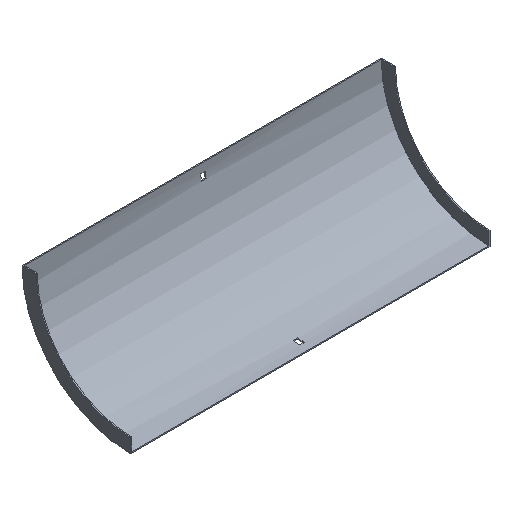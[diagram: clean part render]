
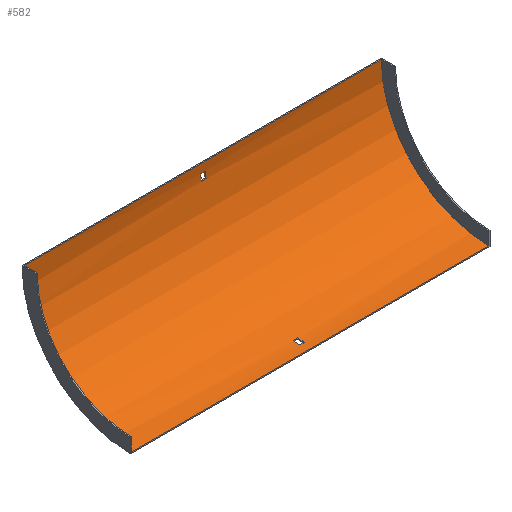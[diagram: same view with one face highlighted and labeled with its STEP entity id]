
A CAD part, isometric view. The second image highlights one B-rep face of the part: STEP entity #582.
In plain terms, the highlighted cylindrical face has radius 152 mm (diameter 304 mm), a partial arc.
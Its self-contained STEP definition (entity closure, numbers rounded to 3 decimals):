
#2 = FACE_OUTER_BOUND ( 'NONE', #137, .T. ) ;
#3 = DIRECTION ( 'NONE',  ( 0., 0., 1. ) ) ;
#10 = ORIENTED_EDGE ( 'NONE', *, *, #424, .T. ) ;
#13 = FACE_BOUND ( 'NONE', #458, .T. ) ;
#17 = ORIENTED_EDGE ( 'NONE', *, *, #328, .T. ) ;
#18 = ORIENTED_EDGE ( 'NONE', *, *, #442, .F. ) ;
#24 = DIRECTION ( 'NONE',  ( -1., 0., 0. ) ) ;
#25 = CARTESIAN_POINT ( 'NONE',  ( 3.25, -132.5, -150.542 ) ) ;
#27 = VERTEX_POINT ( 'NONE', #240 ) ;
#32 = ORIENTED_EDGE ( 'NONE', *, *, #130, .T. ) ;
#33 = CARTESIAN_POINT ( 'NONE',  ( 252., -1.5, 0. ) ) ;
#37 = VERTEX_POINT ( 'NONE', #160 ) ;
#40 = CARTESIAN_POINT ( 'NONE',  ( 3.25, -153.5, 0. ) ) ;
#42 = CARTESIAN_POINT ( 'NONE',  ( -3.25, -153.5, 0. ) ) ;
#46 = DIRECTION ( 'NONE',  ( -1., 0., 0. ) ) ;
#52 = AXIS2_PLACEMENT_3D ( 'NONE', #329, #429, #244 ) ;
#53 = LINE ( 'NONE', #238, #271 ) ;
#54 = DIRECTION ( 'NONE',  ( 0., 0., 1. ) ) ;
#62 = CYLINDRICAL_SURFACE ( 'NONE', #545, 152. ) ;
#70 = CARTESIAN_POINT ( 'NONE',  ( 252., -1.5, 0. ) ) ;
#84 = AXIS2_PLACEMENT_3D ( 'NONE', #432, #197, #150 ) ;
#90 = VERTEX_POINT ( 'NONE', #115 ) ;
#92 = LINE ( 'NONE', #270, #577 ) ;
#100 = LINE ( 'NONE', #473, #133 ) ;
#103 = CIRCLE ( 'NONE', #591, 152. ) ;
#104 = CARTESIAN_POINT ( 'NONE',  ( 253.5, -1.974, -12. ) ) ;
#106 = EDGE_LOOP ( 'NONE', ( #179, #17, #10, #382 ) ) ;
#115 = CARTESIAN_POINT ( 'NONE',  ( -3.25, -2.958, -21. ) ) ;
#118 = CARTESIAN_POINT ( 'NONE',  ( 3.25, -1.974, -12. ) ) ;
#120 = VECTOR ( 'NONE', #488, 1000. ) ;
#124 = EDGE_CURVE ( 'NONE', #423, #474, #493, .T. ) ;
#130 = EDGE_CURVE ( 'NONE', #604, #317, #441, .T. ) ;
#133 = VECTOR ( 'NONE', #188, 1000. ) ;
#137 = EDGE_LOOP ( 'NONE', ( #304, #203, #161, #32 ) ) ;
#150 = DIRECTION ( 'NONE',  ( 0., 0., 1. ) ) ;
#153 = VERTEX_POINT ( 'NONE', #214 ) ;
#160 = CARTESIAN_POINT ( 'NONE',  ( 3.25, -2.958, -21. ) ) ;
#161 = ORIENTED_EDGE ( 'NONE', *, *, #598, .T. ) ;
#176 = DIRECTION ( 'NONE',  ( 0., 0., 1. ) ) ;
#179 = ORIENTED_EDGE ( 'NONE', *, *, #417, .T. ) ;
#183 = VERTEX_POINT ( 'NONE', #118 ) ;
#188 = DIRECTION ( 'NONE',  ( 1., 0., 0. ) ) ;
#192 = CIRCLE ( 'NONE', #386, 152. ) ;
#194 = CARTESIAN_POINT ( 'NONE',  ( -3.25, -132.5, -150.542 ) ) ;
#197 = DIRECTION ( 'NONE',  ( -1., 0., 0. ) ) ;
#203 = ORIENTED_EDGE ( 'NONE', *, *, #124, .F. ) ;
#214 = CARTESIAN_POINT ( 'NONE',  ( -3.25, -141.5, -151.526 ) ) ;
#215 = VECTOR ( 'NONE', #24, 1000. ) ;
#218 = VERTEX_POINT ( 'NONE', #25 ) ;
#220 = DIRECTION ( 'NONE',  ( 0., 0., -1. ) ) ;
#229 = DIRECTION ( 'NONE',  ( 1., 0., 0. ) ) ;
#236 = CARTESIAN_POINT ( 'NONE',  ( 3.25, -141.5, -151.526 ) ) ;
#238 = CARTESIAN_POINT ( 'NONE',  ( 253.5, -141.5, -151.526 ) ) ;
#240 = CARTESIAN_POINT ( 'NONE',  ( -3.25, -1.974, -12. ) ) ;
#244 = DIRECTION ( 'NONE',  ( 0., 0., 1. ) ) ;
#261 = DIRECTION ( 'NONE',  ( 1., 0., 0. ) ) ;
#267 = CARTESIAN_POINT ( 'NONE',  ( -252., -1.5, 0. ) ) ;
#270 = CARTESIAN_POINT ( 'NONE',  ( 253.5, -132.5, -150.542 ) ) ;
#271 = VECTOR ( 'NONE', #319, 1000. ) ;
#304 = ORIENTED_EDGE ( 'NONE', *, *, #462, .F. ) ;
#309 = EDGE_CURVE ( 'NONE', #37, #183, #192, .T. ) ;
#312 = CIRCLE ( 'NONE', #535, 152. ) ;
#317 = VERTEX_POINT ( 'NONE', #267 ) ;
#319 = DIRECTION ( 'NONE',  ( -1., 0., 0. ) ) ;
#320 = ORIENTED_EDGE ( 'NONE', *, *, #552, .F. ) ;
#328 = EDGE_CURVE ( 'NONE', #153, #505, #312, .T. ) ;
#329 = CARTESIAN_POINT ( 'NONE',  ( -252., -153.5, 0. ) ) ;
#334 = FACE_BOUND ( 'NONE', #106, .T. ) ;
#340 = VECTOR ( 'NONE', #426, 1000. ) ;
#344 = CARTESIAN_POINT ( 'NONE',  ( 252., -153.5, 0. ) ) ;
#349 = CIRCLE ( 'NONE', #84, 152. ) ;
#355 = ORIENTED_EDGE ( 'NONE', *, *, #309, .F. ) ;
#359 = CIRCLE ( 'NONE', #52, 152. ) ;
#369 = CARTESIAN_POINT ( 'NONE',  ( -252., -153.5, -152. ) ) ;
#374 = LINE ( 'NONE', #104, #340 ) ;
#382 = ORIENTED_EDGE ( 'NONE', *, *, #486, .T. ) ;
#386 = AXIS2_PLACEMENT_3D ( 'NONE', #40, #229, #220 ) ;
#406 = CARTESIAN_POINT ( 'NONE',  ( 252., -153.5, -152. ) ) ;
#407 = CIRCLE ( 'NONE', #475, 152. ) ;
#417 = EDGE_CURVE ( 'NONE', #469, #153, #53, .T. ) ;
#423 = VERTEX_POINT ( 'NONE', #513 ) ;
#424 = EDGE_CURVE ( 'NONE', #505, #218, #92, .T. ) ;
#426 = DIRECTION ( 'NONE',  ( -1., 0., 0. ) ) ;
#429 = DIRECTION ( 'NONE',  ( 1., 0., 0. ) ) ;
#432 = CARTESIAN_POINT ( 'NONE',  ( -3.25, -153.5, 0. ) ) ;
#441 = LINE ( 'NONE', #70, #215 ) ;
#442 = EDGE_CURVE ( 'NONE', #27, #90, #349, .T. ) ;
#444 = DIRECTION ( 'NONE',  ( 1., 0., 0. ) ) ;
#457 = DIRECTION ( 'NONE',  ( 0., 0., -1. ) ) ;
#458 = EDGE_LOOP ( 'NONE', ( #18, #320, #355, #589 ) ) ;
#462 = EDGE_CURVE ( 'NONE', #474, #317, #359, .T. ) ;
#467 = DIRECTION ( 'NONE',  ( 1., 0., 0. ) ) ;
#468 = CARTESIAN_POINT ( 'NONE',  ( 253.5, -153.5, 0. ) ) ;
#469 = VERTEX_POINT ( 'NONE', #236 ) ;
#473 = CARTESIAN_POINT ( 'NONE',  ( 253.5, -2.958, -21. ) ) ;
#474 = VERTEX_POINT ( 'NONE', #369 ) ;
#475 = AXIS2_PLACEMENT_3D ( 'NONE', #344, #444, #176 ) ;
#486 = EDGE_CURVE ( 'NONE', #218, #469, #103, .T. ) ;
#488 = DIRECTION ( 'NONE',  ( -1., 0., 0. ) ) ;
#493 = LINE ( 'NONE', #406, #120 ) ;
#505 = VERTEX_POINT ( 'NONE', #194 ) ;
#513 = CARTESIAN_POINT ( 'NONE',  ( 252., -153.5, -152. ) ) ;
#528 = CARTESIAN_POINT ( 'NONE',  ( 3.25, -153.5, 0. ) ) ;
#535 = AXIS2_PLACEMENT_3D ( 'NONE', #42, #261, #457 ) ;
#545 = AXIS2_PLACEMENT_3D ( 'NONE', #468, #46, #3 ) ;
#548 = EDGE_CURVE ( 'NONE', #90, #37, #100, .T. ) ;
#552 = EDGE_CURVE ( 'NONE', #183, #27, #374, .T. ) ;
#564 = DIRECTION ( 'NONE',  ( -1., 0., 0. ) ) ;
#577 = VECTOR ( 'NONE', #467, 1000. ) ;
#582 = ADVANCED_FACE ( 'NONE', ( #13, #2, #334 ), #62, .F. ) ;
#589 = ORIENTED_EDGE ( 'NONE', *, *, #548, .F. ) ;
#591 = AXIS2_PLACEMENT_3D ( 'NONE', #528, #564, #54 ) ;
#598 = EDGE_CURVE ( 'NONE', #423, #604, #407, .T. ) ;
#604 = VERTEX_POINT ( 'NONE', #33 ) ;
